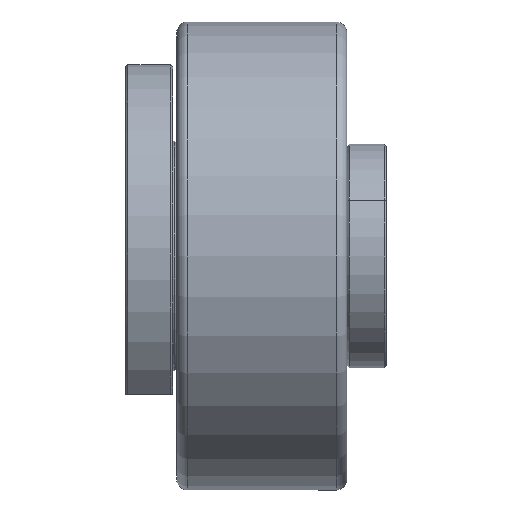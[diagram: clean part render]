
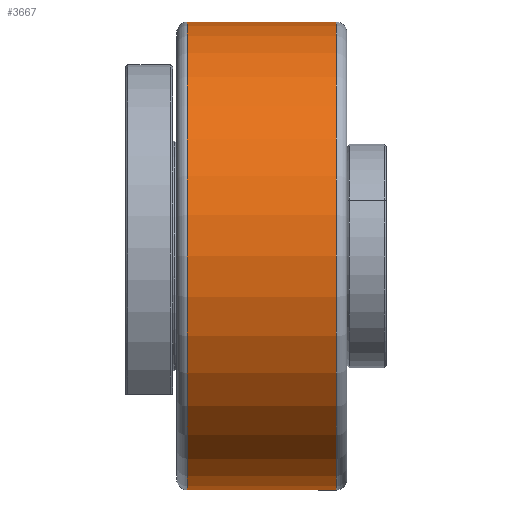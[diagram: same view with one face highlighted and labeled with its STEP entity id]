
A CAD part, front view. The second image highlights one B-rep face of the part: STEP entity #3667.
In plain terms, the highlighted cylindrical face has radius 110 mm (diameter 220 mm), a full revolution.
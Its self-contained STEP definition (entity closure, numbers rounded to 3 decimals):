
#1402=CYLINDRICAL_SURFACE('',#19044,110.);
#3667=ADVANCED_FACE('',(#5125,#5126),#1402,.T.);
#5125=FACE_BOUND('',#6323,.T.);
#5126=FACE_BOUND('',#6324,.T.);
#6323=EDGE_LOOP('',(#11280));
#6324=EDGE_LOOP('',(#11281));
#11280=ORIENTED_EDGE('',*,*,#15447,.T.);
#11281=ORIENTED_EDGE('',*,*,#15448,.T.);
#12953=VERTEX_POINT('',#31912);
#12954=VERTEX_POINT('',#31914);
#15447=EDGE_CURVE('',#12953,#12953,#16769,.T.);
#15448=EDGE_CURVE('',#12954,#12954,#16770,.T.);
#16769=CIRCLE('',#19042,110.);
#16770=CIRCLE('',#19043,110.);
#19042=AXIS2_PLACEMENT_3D('',#31911,#24210,#24211);
#19043=AXIS2_PLACEMENT_3D('',#31913,#24212,#24213);
#19044=AXIS2_PLACEMENT_3D('',#31915,#24214,#24215);
#24210=DIRECTION('',(-1.,0.,0.));
#24211=DIRECTION('',(0.,0.,1.));
#24212=DIRECTION('',(1.,0.,0.));
#24213=DIRECTION('',(0.,0.,-1.));
#24214=DIRECTION('',(1.,0.,0.));
#24215=DIRECTION('',(0.,0.,-1.));
#31911=CARTESIAN_POINT('',(102.5,800.,0.));
#31912=CARTESIAN_POINT('',(102.5,800.,110.));
#31913=CARTESIAN_POINT('',(32.5,800.,0.));
#31914=CARTESIAN_POINT('',(32.5,800.,-110.));
#31915=CARTESIAN_POINT('',(35.,800.,0.));
